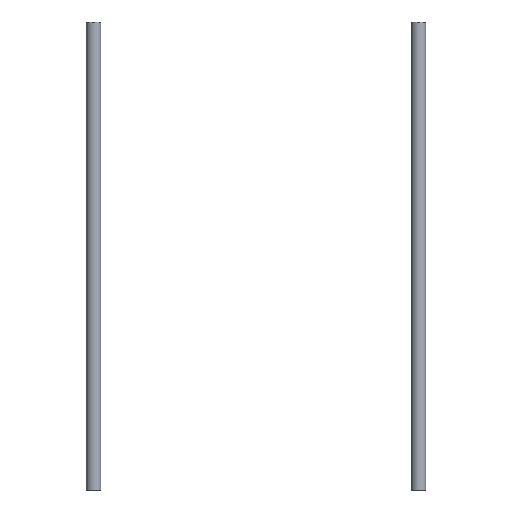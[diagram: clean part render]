
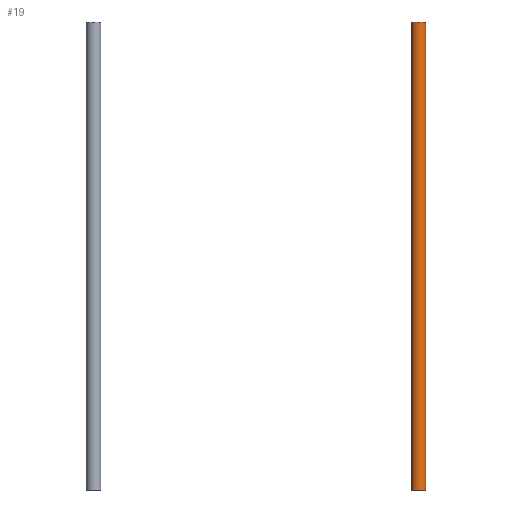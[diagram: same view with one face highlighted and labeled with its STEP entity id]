
A CAD part, front view. The second image highlights one B-rep face of the part: STEP entity #19.
In plain terms, the highlighted cylindrical face has radius 4 mm (diameter 8 mm), a partial arc.
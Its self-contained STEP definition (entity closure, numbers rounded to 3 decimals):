
#19=ADVANCED_FACE('',(#27),#101,.T.);
#27=FACE_OUTER_BOUND('',#35,.T.);
#35=EDGE_LOOP('',(#48,#49,#50,#51));
#48=ORIENTED_EDGE('',*,*,#68,.T.);
#49=ORIENTED_EDGE('',*,*,#65,.T.);
#50=ORIENTED_EDGE('',*,*,#69,.F.);
#51=ORIENTED_EDGE('',*,*,#67,.F.);
#65=EDGE_CURVE('',#88,#89,#77,.T.);
#67=EDGE_CURVE('',#90,#91,#79,.T.);
#68=EDGE_CURVE('',#90,#88,#80,.T.);
#69=EDGE_CURVE('',#91,#89,#81,.T.);
#77=(
BOUNDED_CURVE()
B_SPLINE_CURVE(1,(#227,#228),.UNSPECIFIED.,.F.,.F.)
B_SPLINE_CURVE_WITH_KNOTS((2,2),(0.,255.),.UNSPECIFIED.)
CURVE()
GEOMETRIC_REPRESENTATION_ITEM()
RATIONAL_B_SPLINE_CURVE((1.,1.))
REPRESENTATION_ITEM('')
);
#79=(
BOUNDED_CURVE()
B_SPLINE_CURVE(1,(#234,#235),.UNSPECIFIED.,.F.,.F.)
B_SPLINE_CURVE_WITH_KNOTS((2,2),(0.,255.),.UNSPECIFIED.)
CURVE()
GEOMETRIC_REPRESENTATION_ITEM()
RATIONAL_B_SPLINE_CURVE((1.,1.))
REPRESENTATION_ITEM('')
);
#80=(
BOUNDED_CURVE()
B_SPLINE_CURVE(2,(#236,#237,#238,#239,#240),.UNSPECIFIED.,.F.,.F.)
B_SPLINE_CURVE_WITH_KNOTS((3,2,3),(12.566,18.85,25.133),
 .UNSPECIFIED.)
CURVE()
GEOMETRIC_REPRESENTATION_ITEM()
RATIONAL_B_SPLINE_CURVE((1.,0.707,1.,0.707,1.))
REPRESENTATION_ITEM('')
);
#81=(
BOUNDED_CURVE()
B_SPLINE_CURVE(2,(#241,#242,#243,#244,#245),.UNSPECIFIED.,.F.,.F.)
B_SPLINE_CURVE_WITH_KNOTS((3,2,3),(12.566,18.85,25.133),
 .UNSPECIFIED.)
CURVE()
GEOMETRIC_REPRESENTATION_ITEM()
RATIONAL_B_SPLINE_CURVE((1.,0.707,1.,0.707,1.))
REPRESENTATION_ITEM('')
);
#88=VERTEX_POINT('',#218);
#89=VERTEX_POINT('',#219);
#90=VERTEX_POINT('',#220);
#91=VERTEX_POINT('',#221);
#101=CYLINDRICAL_SURFACE('',#195,4.);
#195=AXIS2_PLACEMENT_3D('',#217,#206,$);
#206=DIRECTION('',(0.,0.,1.));
#217=CARTESIAN_POINT('',(88.514,18.1,122.5));
#218=CARTESIAN_POINT('',(92.514,18.1,-5.));
#219=CARTESIAN_POINT('',(92.514,18.1,250.));
#220=CARTESIAN_POINT('',(84.514,18.1,-5.));
#221=CARTESIAN_POINT('',(84.514,18.1,250.));
#227=CARTESIAN_POINT('',(92.514,18.1,-5.));
#228=CARTESIAN_POINT('',(92.514,18.1,250.));
#234=CARTESIAN_POINT('',(84.514,18.1,-5.));
#235=CARTESIAN_POINT('',(84.514,18.1,250.));
#236=CARTESIAN_POINT('',(84.514,18.1,-5.));
#237=CARTESIAN_POINT('',(84.514,14.1,-5.));
#238=CARTESIAN_POINT('',(88.514,14.1,-5.));
#239=CARTESIAN_POINT('',(92.514,14.1,-5.));
#240=CARTESIAN_POINT('',(92.514,18.1,-5.));
#241=CARTESIAN_POINT('',(84.514,18.1,250.));
#242=CARTESIAN_POINT('',(84.514,14.1,250.));
#243=CARTESIAN_POINT('',(88.514,14.1,250.));
#244=CARTESIAN_POINT('',(92.514,14.1,250.));
#245=CARTESIAN_POINT('',(92.514,18.1,250.));
